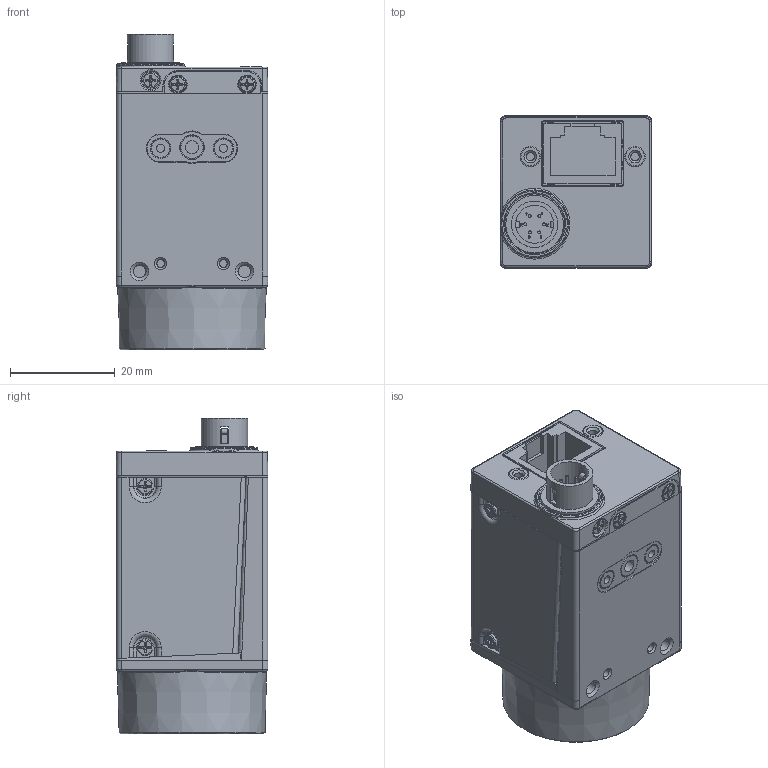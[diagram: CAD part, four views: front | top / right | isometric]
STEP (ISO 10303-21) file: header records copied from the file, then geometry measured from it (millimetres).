
FILE_DESCRIPTION((''),'2;1');
FILE_NAME('C:\cad\PSP2011Client\Work\135368670234IP01880201.stp','2012-11-23T17:10:46',(''),(''),'Autodesk Inventor 2011','Autodesk Inventor 2011','');
FILE_SCHEMA(('AUTOMOTIVE_DESIGN { 1 0 10303 214 1 1 1 1 }'));
Length unit declared in the file: millimetre
Products named in the file (1): 135368670234IP01880201
Bounding box: 29 x 29 x 60.3 mm (x, y, z)
Volume: 34721.2 mm3; surface area: 10116.1 mm2
Topology: 3 solids, 19 shells, 1279 faces, 3693 edges, 2504 vertices
Faces by surface type: plane 818, cylinder 149, cone 122, bspline 101, torus 87, sphere 2
Full cylindrical faces by diameter (mm): 0.55 x6, 1.411 x3, 1.567 x6, 1.6 x3, 1.85 x4, 2.459 x3, 3 x9, 3.22 x2, 3.55 x2, 3.96 x1, 4.35 x1, 7.25 x1, 8.85 x1, 11 x1, 16 x1, 24.536 x1
Entity records: 45673 total; most frequent: CARTESIAN_POINT 12351, ORIENTED_EDGE 7036, DIRECTION 5766, EDGE_CURVE 3518, VERTEX_POINT 2457, VECTOR 2268, LINE 2268, AXIS2_PLACEMENT_3D 1749
